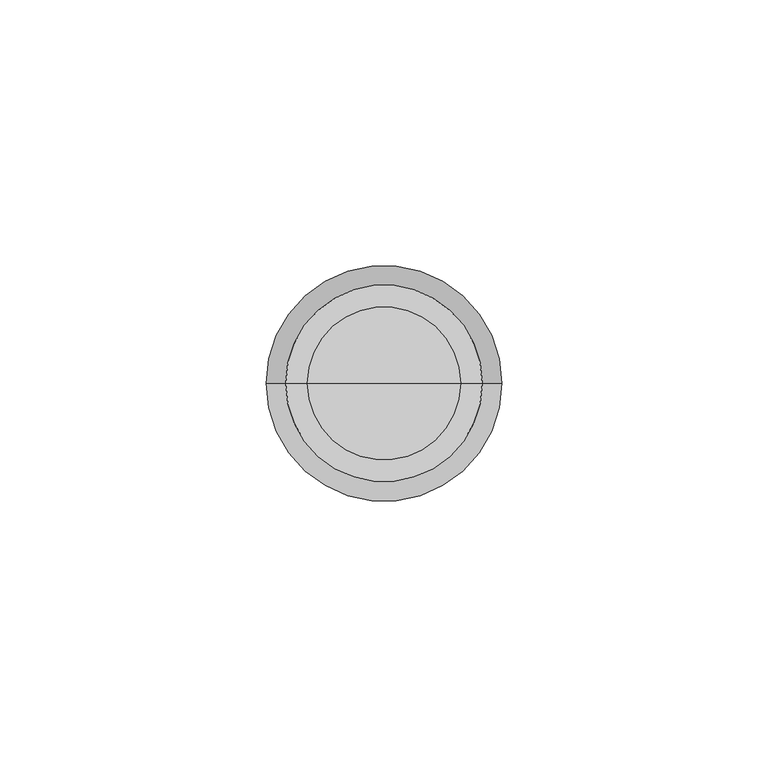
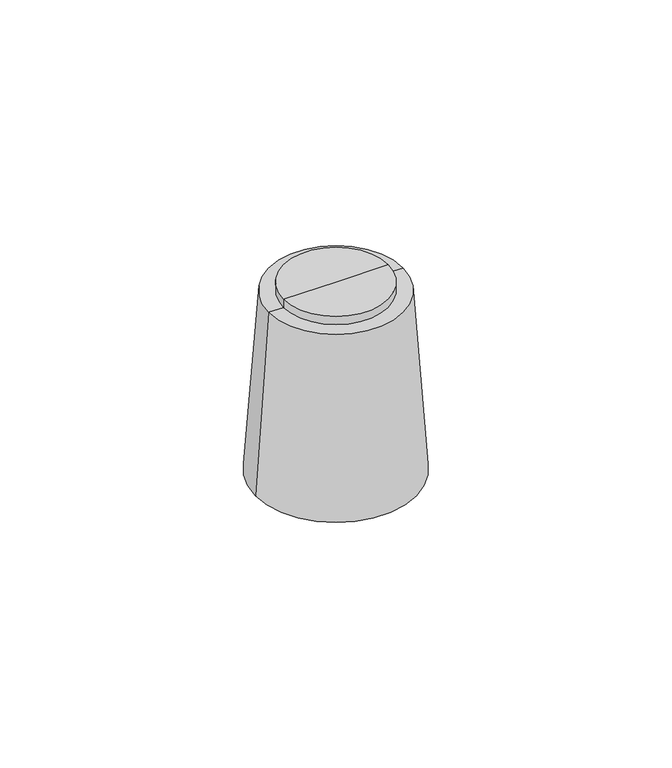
"""IFC4 building model written with IfcOpenShell, lengths in millimetres: valve geometry, Superpipe Actuator for Balancing Valve : Superpipe Actuator for Balancing Valve."""

from ifc_helpers import new_model, si_unit, point, frame, origin, origin_with_axes, origin_2d, place, context, project, spatial, polyline, circle_curve, trimmed, segment, composite_curve, outline, extrude, source, transform, mapped, element, save
from ifc_brep_helpers import plane_surface, cylinder_surface, revolved_surface, advanced_brep


def valve_f4025eb8(model_context):
    return source(origin(), model_context, "Body", "SolidModel", [
        extrude(outline(composite_curve([segment(trimmed(circle_curve(origin_2d(), 12.5), [point((-12.5, 0.0))], [point((12.5, 0.0))], False, "CARTESIAN"), True, "CONTINUOUS"), segment(trimmed(circle_curve(origin_2d(), 12.5), [point((12.5, 0.0))], [point((-12.5, 0.0))], False, "CARTESIAN"), True, "CONTINUOUS")], self_intersect=False)), origin_with_axes(), (0.0, 0.0, 1.0), 4.8),
        advanced_brep(
        [(14.3845114, 0.0, 59.3918205), (-14.3845114, 0.0, 59.3918205), (0.0, 0.0, 59.3918205), (14.3845114, 0.0, 57.0), (-14.3845114, 0.0, 57.0), (18.4998204, 0.0, 57.0), (-18.4998204, 0.0, 57.0), (22.15, 0.0, 4.8), (-22.15, 0.0, 4.8), (0.0, 0.0, 4.8)],
        [
            (0, 1, circle_curve(frame((0.0, 0.0, 59.3918205), z_axis=(0.0, 0.0, 1.0), x_axis=(-1.0, 0.0, 0.0)), 14.3845114)),
            (1, 2),
            (2, 0),
            (1, 0, circle_curve(frame((0.0, 0.0, 59.3918205), z_axis=(0.0, 0.0, 1.0), x_axis=(-1.0, 0.0, 0.0)), 14.3845114)),
            (3, 4, circle_curve(frame((0.0, 0.0, 57.0), z_axis=(0.0, 0.0, 1.0), x_axis=(-1.0, 0.0, 0.0)), 14.3845114)),
            (4, 1),
            (0, 3),
            (4, 3, circle_curve(frame((0.0, 0.0, 57.0), z_axis=(0.0, 0.0, 1.0), x_axis=(-1.0, 0.0, 0.0)), 14.3845114)),
            (5, 6, circle_curve(frame((0.0, 0.0, 57.0), z_axis=(0.0, 0.0, 1.0), x_axis=(-1.0, 0.0, 0.0)), 18.4998204)),
            (6, 4),
            (3, 5),
            (6, 5, circle_curve(frame((0.0, 0.0, 57.0), z_axis=(0.0, 0.0, 1.0), x_axis=(-1.0, 0.0, 0.0)), 18.4998204)),
            (7, 8, circle_curve(frame((0.0, 0.0, 4.8), z_axis=(0.0, 0.0, 1.0), x_axis=(-1.0, 0.0, 0.0)), 22.15)),
            (8, 6),
            (5, 7),
            (8, 7, circle_curve(frame((0.0, 0.0, 4.8), z_axis=(0.0, 0.0, 1.0), x_axis=(-1.0, 0.0, 0.0)), 22.15)),
            (9, 8),
            (7, 9),
        ],
        [
            plane_surface(frame((0.0, 0.0, 59.3918205), z_axis=(0.0, 0.0, 1.0), x_axis=(-1.0, 0.0, 0.0))),
            cylinder_surface(frame((0.0, 0.0, 88.1521916), z_axis=(0.0, 0.0, -1.0), x_axis=(-1.0, 0.0, 0.0)), 14.3845114),
            plane_surface(frame((0.0, 0.0, 57.0), z_axis=(0.0, 0.0, 1.0), x_axis=(-1.0, 0.0, 0.0))),
            revolved_surface(polyline([(-18.4998204, 0.0, 57.0), (-22.15, 0.0, 4.8)]), (0.0, 0.0, 88.1521916), (0.0, 0.0, -1.0)),
            plane_surface(frame((0.0, 0.0, 4.8), z_axis=(0.0, 0.0, -1.0), x_axis=(-1.0, 0.0, 0.0))),
        ],
        [
            (0, [[1, 2, 3]]),
            (0, [[4, -3, -2]]),
            (1, [[5, 6, -1, 7]]),
            (1, [[8, -7, -4, -6]]),
            (2, [[9, 10, -5, 11]]),
            (2, [[12, -11, -8, -10]]),
            (3, [[13, 14, -9, 15]]),
            (3, [[16, -15, -12, -14]]),
            (4, [[17, -13, 18]]),
            (4, [[-18, -16, -17]]),
        ],
    ),
    ])


if __name__ == "__main__":
    model = new_model("IFC4")
    model_context = context("Model", 3, world=origin())
    ifc_project = project(units=[si_unit("LENGTHUNIT", "METRE", prefix="MILLI")], contexts=[model_context])
    site = spatial("IfcSite", under=ifc_project)
    building = spatial("IfcBuilding", under=site)
    placement = place(None, origin())
    valve_shape = valve_f4025eb8(model_context)
    element("IfcValve", 1, ObjectType="Superpipe Actuator for Balancing Valve : Superpipe Actuator for Balancing Valve", at=placement, inside=building, context=model_context, shape_type="MappedRepresentation", body=[
        mapped(valve_shape, transform((0.0, 0.0, 0.0), x_axis=(1.0, 0.0, 0.0), y_axis=(0.0, 1.0, 0.0), z_axis=(0.0, 0.0, 1.0))),
    ])
    save(model, "model.ifc")
